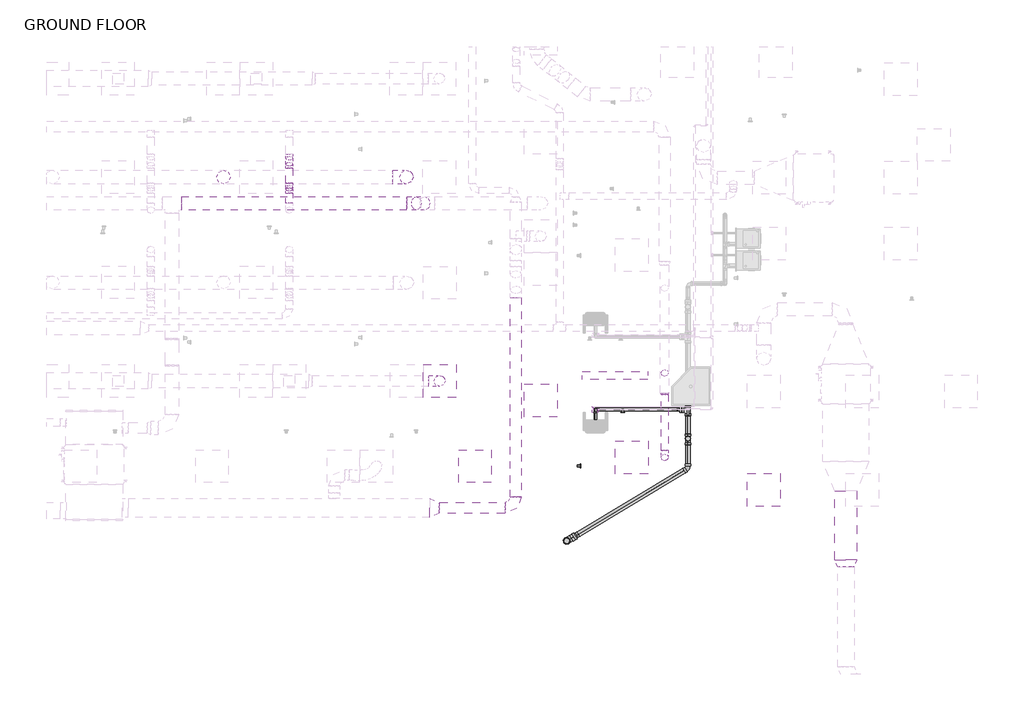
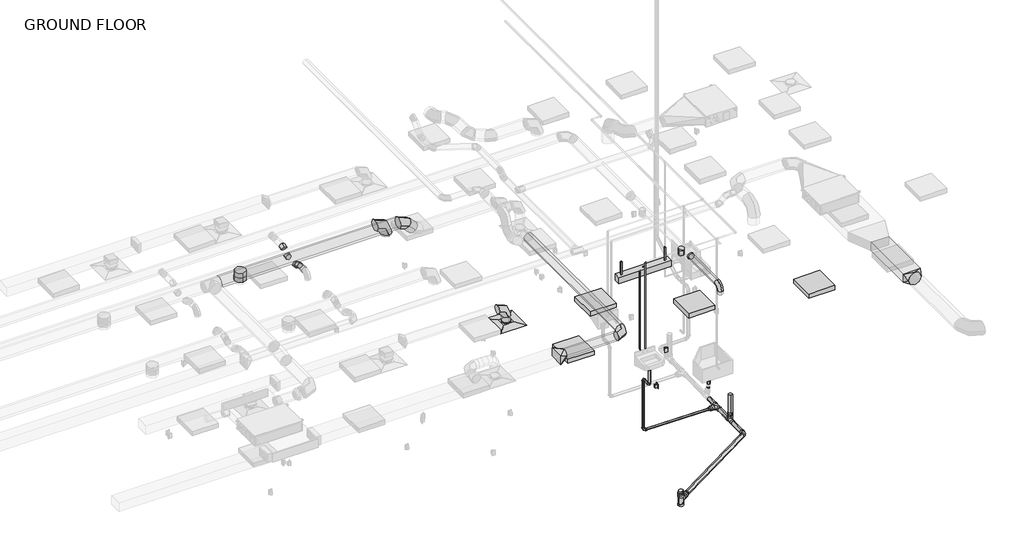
# One storey, part 6 of 20: 15 pipe fittings, 15 pipe segments, 14 duct fittings, 14 duct segments, 5 light fixtures, 1 air terminal, 1 proxy, 1 switching device.
"""IFC4 building model written with IfcOpenShell, lengths in millimetres."""

from ifc_helpers import new_model, si_unit, point, frame, frame_2d, origin, place, context, project, spatial, polyline, circle_curve, trimmed, segment, composite_curve, outline, extrude, transform, mapped, element, save
from components import air_terminal_e9020785, duplex_receptacle_countertop_10251bba, rectangular_to_round_transition_angle_45_degree_3a9c6b82, rectangular_to_round_transition_angle_45_degree_a6b6a24c, round_elbow_1_d_a253342a, round_elbow_1_d_6fec3262, round_elbow_1_d_c80420c1, round_elbow_1_d_ea3dccb8, round_elbow_1_d_538d8ec8, round_takeoff_standard_c386a54e, round_takeoff_standard_0d53327c, round_transition_angle_45_degree_f2e0231c, suspended_fluorescent_strip_non_hosted_strip_light_1x4_120v_4ea4ccb3, troffer_corner_insert_2x2_3lamp_e67c7f8f, bend_pvc_sch_40_dwv_standard_56513ac6, bend_pvc_sch_40_dwv_standard_370f4fae, bend_pvc_sch_40_dwv_standard_7bd6d8ba, elbow_generic_standard_a088f956, reducer_pvc_sch_40_dwv_standard_e0255712, reducer_pvc_sch_40_dwv_standard_bed7e4d3, reducer_pvc_sch_40_dwv_standard_58c00515, reducer_pvc_sch_40_dwv_standard_880e498f, tee_sanitary_pvc_sch_40_dwv_standard_1c89b272, tee_sanitary_pvc_sch_40_dwv_standard_95650df0, tee_sanitary_pvc_sch_40_dwv_standard_6eba9932

model = new_model("IFC4")

# Units and contexts
model_context = context("Model", 3, world=origin())
ifc_project = project(units=[si_unit("LENGTHUNIT", "METRE", prefix="MILLI")], contexts=[model_context])

# Site, building, storey
site = spatial("IfcSite", under=ifc_project)
building = spatial("IfcBuilding", under=site)
storey = spatial("IfcBuildingStorey", under=building, Name="GROUND FLOOR", Elevation=30480.0)

# Air terminal
placement = place(None, origin())
air_terminal_shape = air_terminal_e9020785(model_context)
element("IfcAirTerminal", 1, ObjectType="Supply Diffuser - Rectangular Face Round Neck - Hosted : 24\"x24\" Face 8\" Neck - Hosted", at=placement, inside=storey, context=model_context, shape_type="MappedRepresentation", body=[
    mapped(air_terminal_shape, transform((8335.3295393, -4228.1054995, 33223.2), x_axis=(0.0, -1.0, 0.0), y_axis=(-1.0, 0.0, 0.0), z_axis=(0.0, 0.0, -1.0))),
])

# Proxy
duplex_receptacle_countertop_shape = duplex_receptacle_countertop_10251bba(model_context)
element("IfcBuildingElementProxy", 2, Name="Duplex Receptacle : GFCI", ObjectType="Duplex Receptacle : GFCI", at=placement, inside=storey, context=model_context, shape_type="MappedRepresentation", body=[
    mapped(duplex_receptacle_countertop_shape, transform((11730.8076286, -4809.1304995, 31699.2), x_axis=(1.0, 0.0, 0.0), y_axis=(0.0, 0.0, 1.0), z_axis=(0.0, -1.0, 0.0))),
])

# Duct fittings
rectangular_to_round_transition_angle_45_degree_shape = rectangular_to_round_transition_angle_45_degree_3a9c6b82(model_context)
element("IfcDuctFitting", 3, ObjectType="Rectangular to Round Transition - Angle : 45 Degree", at=placement, inside=storey, context=model_context, shape_type="MappedRepresentation", body=[
    mapped(rectangular_to_round_transition_angle_45_degree_shape, transform((8148.4082034, -6584.4850038, 33877.25), x_axis=(1.0, 0.0, 0.0), y_axis=(0.0, 1.0, 0.0), z_axis=(0.0, 0.0, 1.0))),
])
rectangular_to_round_transition_angle_45_degree_2_shape = rectangular_to_round_transition_angle_45_degree_a6b6a24c(model_context)
element("IfcDuctFitting", 4, ObjectType="Rectangular to Round Transition - Angle : 45 Degree", at=placement, inside=storey, context=model_context, shape_type="MappedRepresentation", body=[
    mapped(rectangular_to_round_transition_angle_45_degree_2_shape, transform((15866.7105962, -7552.464426, 33750.25), x_axis=(0.0, -1.0, 0.0), y_axis=(1.0, 0.0, 0.0), z_axis=(0.0, 0.0, 1.0))),
])
round_elbow_1_d_shape = round_elbow_1_d_a253342a(model_context)
element("IfcDuctFitting", 5, ObjectType="Round Elbow : 1 D", at=placement, inside=storey, context=model_context, shape_type="MappedRepresentation", body=[
    mapped(round_elbow_1_d_shape, transform((9751.3795393, -6584.4850038, 33877.25), x_axis=(1.0, 0.0, 0.0), y_axis=(0.0, 1.0, 0.0), z_axis=(0.0, 0.0, 1.0))),
])
element("IfcDuctFitting", 6, ObjectType="Round Elbow : 1 D", at=placement, inside=storey, context=model_context, shape_type="MappedRepresentation", body=[
    mapped(round_elbow_1_d_shape, transform((8335.3295393, -4228.1054995, 33604.2), x_axis=(0.0, 0.0, 1.0), y_axis=(-1.0, 0.0, 0.0), z_axis=(0.0, -1.0, 0.0))),
])
round_elbow_1_d_2_shape = round_elbow_1_d_6fec3262(model_context)
element("IfcDuctFitting", 7, ObjectType="Round Elbow : 1 D", at=placement, inside=storey, context=model_context, shape_type="MappedRepresentation", body=[
    mapped(round_elbow_1_d_2_shape, transform((7719.2671727, -446.6804995, 33617.69375), x_axis=(0.0, 0.0, 1.0), y_axis=(-1.0, 0.0, 0.0), z_axis=(0.0, -1.0, 0.0))),
])
round_elbow_1_d_3_shape = round_elbow_1_d_c80420c1(model_context)
element("IfcDuctFitting", 8, ObjectType="Round Elbow : 1 D", at=placement, inside=storey, context=model_context, shape_type="MappedRepresentation", body=[
    mapped(round_elbow_1_d_3_shape, transform((12507.2795393, -5647.3304995, 33528.0), x_axis=(0.0, 0.0, 1.0), y_axis=(0.0, 1.0, 0.0), z_axis=(-1.0, 0.0, 0.0))),
])
round_elbow_1_d_4_shape = round_elbow_1_d_ea3dccb8(model_context)
element("IfcDuctFitting", 9, ObjectType="Round Elbow : 1 D", at=placement, inside=storey, context=model_context, shape_type="MappedRepresentation", body=[
    mapped(round_elbow_1_d_4_shape, transform((7831.7019534, -932.4554995, 33883.6), x_axis=(1.0, 0.0, 0.0), y_axis=(0.0, 0.0, -1.0), z_axis=(0.0, 1.0, 0.0))),
])
round_elbow_1_d_5_shape = round_elbow_1_d_538d8ec8(model_context)
element("IfcDuctFitting", 10, ObjectType="Round Elbow : 1 D", at=placement, inside=storey, context=model_context, shape_type="MappedRepresentation", body=[
    mapped(round_elbow_1_d_5_shape, transform((5547.6681472, -599.403412, 33404.3557926), x_axis=(0.0, 0.8191520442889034, -0.5735764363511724), y_axis=(0.0, 0.5735764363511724, 0.8191520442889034), z_axis=(1.0, 0.0, 0.0))),
])
element("IfcDuctFitting", 11, ObjectType="Round Elbow : 1 D", at=placement, inside=storey, context=model_context, shape_type="MappedRepresentation", body=[
    mapped(round_elbow_1_d_5_shape, transform((5547.6681472, -240.3054995, 33404.3557926), x_axis=(0.0, 1.0, 0.0), y_axis=(0.0, 0.0, 1.0), z_axis=(1.0, 0.0, 0.0))),
])
element("IfcDuctFitting", 12, ObjectType="Round Elbow : 1 D", at=placement, inside=storey, context=model_context, shape_type="MappedRepresentation", body=[
    mapped(round_elbow_1_d_5_shape, transform((5547.6681472, -63.7232711, 33528.0), x_axis=(0.0, 0.8191520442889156, 0.5735764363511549), y_axis=(0.0, 0.5735764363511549, -0.8191520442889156), z_axis=(-1.0, 0.0, 0.0))),
])
element("IfcDuctFitting", 13, ObjectType="Round Elbow : 1 D", at=placement, inside=storey, context=model_context, shape_type="MappedRepresentation", body=[
    mapped(round_elbow_1_d_5_shape, transform((5547.6681472, -703.4357216, 33477.2), x_axis=(0.0, -0.8191520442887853, 0.573576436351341), y_axis=(0.0, -0.573576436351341, -0.8191520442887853), z_axis=(1.0, 0.0, 0.0))),
])
round_takeoff_standard_shape = round_takeoff_standard_c386a54e(model_context)
element("IfcDuctFitting", 14, ObjectType="Round Takeoff : Standard", at=placement, inside=storey, context=model_context, shape_type="MappedRepresentation", body=[
    mapped(round_takeoff_standard_shape, transform((4328.4681472, -446.6804995, 33490.69375), x_axis=(0.0, 0.0, -1.0), y_axis=(-1.0, 0.0, 0.0), z_axis=(0.0, 1.0, 0.0))),
])
round_takeoff_standard_2_shape = round_takeoff_standard_0d53327c(model_context)
element("IfcDuctFitting", 15, ObjectType="Round Takeoff : Standard", at=placement, inside=storey, context=model_context, shape_type="MappedRepresentation", body=[
    mapped(round_takeoff_standard_2_shape, transform((12507.2795393, -4078.8804995, 33451.8), x_axis=(0.0, 0.0, -1.0), y_axis=(-1.0, 0.0, 0.0), z_axis=(0.0, 1.0, 0.0))),
])
round_transition_angle_45_degree_shape = round_transition_angle_45_degree_f2e0231c(model_context)
element("IfcDuctFitting", 16, ObjectType="Round Transition - Angle : 45 Degree", at=placement, inside=storey, context=model_context, shape_type="MappedRepresentation", body=[
    mapped(round_transition_angle_45_degree_shape, transform((12507.2795393, -4478.9304995, 33528.0), x_axis=(0.0, 1.0, 0.0), y_axis=(-1.0, 0.0, 0.0), z_axis=(0.0, 0.0, 1.0))),
])

# Duct segments
element("IfcDuctSegment", 17, ObjectType="Mitered Elbows / Taps", at=placement, inside=storey, context=model_context, shape_type="SweptSolid", body=[
    extrude(outline(polyline([(15663.5105962, -6265.9722363), (16069.9105962, -6265.9722363), (16069.9105962, -7552.464426), (15663.5105962, -7552.464426), (15663.5105962, -6265.9722363)])), frame((0.0, 0.0, 33648.65), z_axis=(0.0, 0.0, 1.0), x_axis=(1.0, 0.0, 0.0)), (0.0, 0.0, 1.0), 203.2),
])
element("IfcDuctSegment", 18, ObjectType="Taps / Short Radius", at=placement, inside=storey, context=model_context, shape_type="SweptSolid", body=[
    extrude(outline(composite_curve([segment(trimmed(circle_curve(frame_2d((-6584.4850038, 33877.25)), 101.6), [point((-6686.0850038, 33877.25))], [point((-6584.4850038, 33978.85))], False, "CARTESIAN"), True, "CONTINUOUS"), segment(trimmed(circle_curve(frame_2d((-6584.4850038, 33877.25)), 101.6), [point((-6584.4850038, 33978.85))], [point((-6482.8850038, 33877.25))], False, "CARTESIAN"), True, "CONTINUOUS"), segment(trimmed(circle_curve(frame_2d((-6584.4850038, 33877.25)), 101.6), [point((-6482.8850038, 33877.25))], [point((-6584.4850038, 33775.65))], False, "CARTESIAN"), True, "CONTINUOUS"), segment(trimmed(circle_curve(frame_2d((-6584.4850038, 33877.25)), 101.6), [point((-6584.4850038, 33775.65))], [point((-6686.0850038, 33877.25))], False, "CARTESIAN"), True, "CONTINUOUS")], self_intersect=False)), frame((8332.3712769, 0.0, 0.0), z_axis=(1.0, 0.0, 0.0), x_axis=(0.0, 1.0, 0.0)), (0.0, 0.0, 1.0), 1215.8082624),
])
element("IfcDuctSegment", 19, ObjectType="Taps / Short Radius", at=placement, inside=storey, context=model_context, shape_type="SweptSolid", body=[
    extrude(outline(composite_curve([segment(trimmed(circle_curve(frame_2d((8335.3295393, -4228.1054995)), 101.6), [point((8335.3295393, -4126.5054995))], [point((8436.9295393, -4228.1054995))], False, "CARTESIAN"), True, "CONTINUOUS"), segment(trimmed(circle_curve(frame_2d((8335.3295393, -4228.1054995)), 101.6), [point((8436.9295393, -4228.1054995))], [point((8335.3295393, -4329.7054995))], False, "CARTESIAN"), True, "CONTINUOUS"), segment(trimmed(circle_curve(frame_2d((8335.3295393, -4228.1054995)), 101.6), [point((8335.3295393, -4329.7054995))], [point((8233.7295393, -4228.1054995))], False, "CARTESIAN"), True, "CONTINUOUS"), segment(trimmed(circle_curve(frame_2d((8335.3295393, -4228.1054995)), 101.6), [point((8233.7295393, -4228.1054995))], [point((8335.3295393, -4126.5054995))], False, "CARTESIAN"), True, "CONTINUOUS")], self_intersect=False)), frame((0.0, 0.0, 33277.175), z_axis=(0.0, 0.0, 1.0), x_axis=(1.0, 0.0, 0.0)), (0.0, 0.0, 1.0), 123.825),
])
element("IfcDuctSegment", 20, ObjectType="Taps / Short Radius", at=placement, inside=storey, context=model_context, shape_type="SweptSolid", body=[
    extrude(outline(composite_curve([segment(trimmed(circle_curve(frame_2d((-932.4554995, 33883.6)), 127.0), [point((-1059.4554995, 33883.6))], [point((-932.4554995, 34010.6))], False, "CARTESIAN"), True, "CONTINUOUS"), segment(trimmed(circle_curve(frame_2d((-932.4554995, 33883.6)), 127.0), [point((-932.4554995, 34010.6))], [point((-805.4554995, 33883.6))], False, "CARTESIAN"), True, "CONTINUOUS"), segment(trimmed(circle_curve(frame_2d((-932.4554995, 33883.6)), 127.0), [point((-805.4554995, 33883.6))], [point((-932.4554995, 33756.6))], False, "CARTESIAN"), True, "CONTINUOUS"), segment(trimmed(circle_curve(frame_2d((-932.4554995, 33883.6)), 127.0), [point((-932.4554995, 33756.6))], [point((-1059.4554995, 33883.6))], False, "CARTESIAN"), True, "CONTINUOUS")], self_intersect=False)), frame((3551.0082034, 0.0, 0.0), z_axis=(1.0, 0.0, 0.0), x_axis=(0.0, 1.0, 0.0)), (0.0, 0.0, 1.0), 4175.4835052),
])
element("IfcDuctSegment", 21, ObjectType="Taps / Short Radius", at=placement, inside=storey, context=model_context, shape_type="SweptSolid", body=[
    extrude(outline(composite_curve([segment(trimmed(circle_curve(frame_2d((0.0, -127.0)), 127.0), [point((0.0, -254.0))], [point((-127.0, -127.0))], False, "CARTESIAN"), True, "CONTINUOUS"), segment(trimmed(circle_curve(frame_2d((0.0, -127.0)), 127.0), [point((-127.0, -127.0))], [point((0.0, 0.0))], False, "CARTESIAN"), True, "CONTINUOUS"), segment(trimmed(circle_curve(frame_2d((0.0, -127.0)), 127.0), [point((0.0, 0.0))], [point((127.0, -127.0))], False, "CARTESIAN"), True, "CONTINUOUS"), segment(trimmed(circle_curve(frame_2d((0.0, -127.0)), 127.0), [point((127.0, -127.0))], [point((0.0, -254.0))], False, "CARTESIAN"), True, "CONTINUOUS")], self_intersect=False)), frame((8062.1070759, -805.4554995, 33653.1948776), z_axis=(-0.7071067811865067, 0.0, 0.7071067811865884), x_axis=(0.7071067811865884, 0.0, 0.7071067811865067)), (0.0, 0.0, 1.0), 220.6318041),
])
element("IfcDuctSegment", 22, ObjectType="Taps / Short Radius", at=placement, inside=storey, context=model_context, shape_type="SweptSolid", body=[
    extrude(outline(composite_curve([segment(trimmed(circle_curve(frame_2d((7719.2671727, -446.6804995)), 127.0), [point((7719.2671727, -319.6804995))], [point((7846.2671727, -446.6804995))], False, "CARTESIAN"), True, "CONTINUOUS"), segment(trimmed(circle_curve(frame_2d((7719.2671727, -446.6804995)), 127.0), [point((7846.2671727, -446.6804995))], [point((7719.2671727, -573.6804995))], False, "CARTESIAN"), True, "CONTINUOUS"), segment(trimmed(circle_curve(frame_2d((7719.2671727, -446.6804995)), 127.0), [point((7719.2671727, -573.6804995))], [point((7592.2671727, -446.6804995))], False, "CARTESIAN"), True, "CONTINUOUS"), segment(trimmed(circle_curve(frame_2d((7719.2671727, -446.6804995)), 127.0), [point((7592.2671727, -446.6804995))], [point((7719.2671727, -319.6804995))], False, "CARTESIAN"), True, "CONTINUOUS")], self_intersect=False)), frame((0.0, 0.0, 33324.8), z_axis=(0.0, 0.0, 1.0), x_axis=(1.0, 0.0, 0.0)), (0.0, 0.0, 1.0), 38.89375),
])
element("IfcDuctSegment", 23, ObjectType="Taps / Short Radius", at=placement, inside=storey, context=model_context, shape_type="SweptSolid", body=[
    extrude(outline(composite_curve([segment(trimmed(circle_curve(frame_2d((33528.0, 12507.2795393)), 63.5), [point((33528.0, 12570.7795393))], [point((33591.5, 12507.2795393))], False, "CARTESIAN"), True, "CONTINUOUS"), segment(trimmed(circle_curve(frame_2d((33528.0, 12507.2795393)), 63.5), [point((33591.5, 12507.2795393))], [point((33528.0, 12443.7795393))], False, "CARTESIAN"), True, "CONTINUOUS"), segment(trimmed(circle_curve(frame_2d((33528.0, 12507.2795393)), 63.5), [point((33528.0, 12443.7795393))], [point((33464.5, 12507.2795393))], False, "CARTESIAN"), True, "CONTINUOUS"), segment(trimmed(circle_curve(frame_2d((33528.0, 12507.2795393)), 63.5), [point((33464.5, 12507.2795393))], [point((33528.0, 12570.7795393))], False, "CARTESIAN"), True, "CONTINUOUS")], self_intersect=False)), frame((0.0, -5520.3304995, 0.0), z_axis=(0.0, 1.0, 0.0), x_axis=(0.0, 0.0, 1.0)), (0.0, 0.0, 1.0), 1041.4),
])
element("IfcDuctSegment", 24, ObjectType="Taps / Short Radius", at=placement, inside=storey, context=model_context, shape_type="SweptSolid", body=[
    extrude(outline(composite_curve([segment(trimmed(circle_curve(frame_2d((12507.2795393, -5647.3304995)), 63.5), [point((12570.7795393, -5647.3304995))], [point((12507.2795393, -5710.8304995))], False, "CARTESIAN"), True, "CONTINUOUS"), segment(trimmed(circle_curve(frame_2d((12507.2795393, -5647.3304995)), 63.5), [point((12507.2795393, -5710.8304995))], [point((12443.7795393, -5647.3304995))], False, "CARTESIAN"), True, "CONTINUOUS"), segment(trimmed(circle_curve(frame_2d((12507.2795393, -5647.3304995)), 63.5), [point((12443.7795393, -5647.3304995))], [point((12507.2795393, -5583.8304995))], False, "CARTESIAN"), True, "CONTINUOUS"), segment(trimmed(circle_curve(frame_2d((12507.2795393, -5647.3304995)), 63.5), [point((12507.2795393, -5583.8304995))], [point((12570.7795393, -5647.3304995))], False, "CARTESIAN"), True, "CONTINUOUS")], self_intersect=False)), frame((0.0, 0.0, 33324.8), z_axis=(0.0, 0.0, 1.0), x_axis=(1.0, 0.0, 0.0)), (0.0, 0.0, 1.0), 76.2),
])
element("IfcDuctSegment", 25, ObjectType="Taps / Short Radius", at=placement, inside=storey, context=model_context, shape_type="SweptSolid", body=[
    extrude(outline(composite_curve([segment(trimmed(circle_curve(frame_2d((0.0, 63.5)), 63.5), [point((-63.5, 63.5))], [point((0.0, 127.0))], False, "CARTESIAN"), True, "CONTINUOUS"), segment(trimmed(circle_curve(frame_2d((0.0, 63.5)), 63.5), [point((0.0, 127.0))], [point((63.5, 63.5))], False, "CARTESIAN"), True, "CONTINUOUS"), segment(trimmed(circle_curve(frame_2d((0.0, 63.5)), 63.5), [point((63.5, 63.5))], [point((0.0, 0.0))], False, "CARTESIAN"), True, "CONTINUOUS"), segment(trimmed(circle_curve(frame_2d((0.0, 63.5)), 63.5), [point((0.0, 0.0))], [point((-63.5, 63.5))], False, "CARTESIAN"), True, "CONTINUOUS")], self_intersect=False)), frame((12507.2795393, -4142.3804995, 33324.8), z_axis=(0.0, -2.3192114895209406e-12, 1.0), x_axis=(1.0, 0.0, 0.0)), (0.0, 0.0, 1.0), 25.4),
])
element("IfcDuctSegment", 26, ObjectType="Taps / Short Radius", at=placement, inside=storey, context=model_context, shape_type="SweptSolid", body=[
    extrude(outline(composite_curve([segment(trimmed(circle_curve(frame_2d((0.0, -63.5)), 63.5), [point((63.5, -63.5))], [point((0.0, -127.0000001))], False, "CARTESIAN"), True, "CONTINUOUS"), segment(trimmed(circle_curve(frame_2d((0.0, -63.5)), 63.5), [point((0.0, -127.0000001))], [point((-63.5, -63.5))], False, "CARTESIAN"), True, "CONTINUOUS"), segment(trimmed(circle_curve(frame_2d((0.0, -63.5)), 63.5), [point((-63.5, -63.5))], [point((0.0, 0.0))], False, "CARTESIAN"), True, "CONTINUOUS"), segment(trimmed(circle_curve(frame_2d((0.0, -63.5)), 63.5), [point((0.0, 0.0))], [point((63.5, -63.5))], False, "CARTESIAN"), True, "CONTINUOUS")], self_intersect=False)), frame((5547.6681472, -595.7825695, 33479.3396378), z_axis=(0.0, -0.819152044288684, 0.5735764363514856), x_axis=(1.0, 0.0, 0.0)), (0.0, 0.0, 1.0), 46.9141076),
])
element("IfcDuctSegment", 27, ObjectType="Taps / Short Radius", at=placement, inside=storey, context=model_context, shape_type="SweptSolid", body=[
    extrude(outline(composite_curve([segment(trimmed(circle_curve(frame_2d((33404.3557926, 5547.6681472)), 63.5), [point((33404.3557926, 5611.1681472))], [point((33467.8557926, 5547.6681472))], False, "CARTESIAN"), True, "CONTINUOUS"), segment(trimmed(circle_curve(frame_2d((33404.3557926, 5547.6681472)), 63.5), [point((33467.8557926, 5547.6681472))], [point((33404.3557926, 5484.1681472))], False, "CARTESIAN"), True, "CONTINUOUS"), segment(trimmed(circle_curve(frame_2d((33404.3557926, 5547.6681472)), 63.5), [point((33404.3557926, 5484.1681472))], [point((33340.8557926, 5547.6681472))], False, "CARTESIAN"), True, "CONTINUOUS"), segment(trimmed(circle_curve(frame_2d((33404.3557926, 5547.6681472)), 63.5), [point((33340.8557926, 5547.6681472))], [point((33404.3557926, 5611.1681472))], False, "CARTESIAN"), True, "CONTINUOUS")], self_intersect=False)), frame((0.0, -559.3604658, 0.0), z_axis=(0.0, 1.0, 0.0), x_axis=(0.0, 0.0, 1.0)), (0.0, 0.0, 1.0), 279.0120202),
])
element("IfcDuctSegment", 28, ObjectType="Taps / Short Radius", at=placement, inside=storey, context=model_context, shape_type="SweptSolid", body=[
    extrude(outline(composite_curve([segment(trimmed(circle_curve(frame_2d((0.0, 63.5)), 63.5), [point((63.5, 63.5))], [point((0.0, 0.0))], False, "CARTESIAN"), True, "CONTINUOUS"), segment(trimmed(circle_curve(frame_2d((0.0, 63.5)), 63.5), [point((0.0, 0.0))], [point((-63.5, 63.5))], False, "CARTESIAN"), True, "CONTINUOUS"), segment(trimmed(circle_curve(frame_2d((0.0, 63.5)), 63.5), [point((-63.5, 63.5))], [point((0.0, 127.0000001))], False, "CARTESIAN"), True, "CONTINUOUS"), segment(trimmed(circle_curve(frame_2d((0.0, 63.5)), 63.5), [point((0.0, 127.0000001))], [point((63.5, 63.5))], False, "CARTESIAN"), True, "CONTINUOUS")], self_intersect=False)), frame((5547.6681472, -243.926342, 33479.3396378), z_axis=(0.0, 0.8191520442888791, 0.5735764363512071), x_axis=(1.0, 0.0, 0.0)), (0.0, 0.0, 1.0), 135.4812048),
])
element("IfcDuctSegment", 29, ObjectType="Taps / Short Radius", at=placement, inside=storey, context=model_context, shape_type="SweptSolid", body=[
    extrude(outline(composite_curve([segment(trimmed(circle_curve(frame_2d((33877.25, 9751.3795393)), 101.6), [point((33877.25, 9852.9795393))], [point((33978.85, 9751.3795393))], False, "CARTESIAN"), True, "CONTINUOUS"), segment(trimmed(circle_curve(frame_2d((33877.25, 9751.3795393)), 101.6), [point((33978.85, 9751.3795393))], [point((33877.25, 9649.7795393))], False, "CARTESIAN"), True, "CONTINUOUS"), segment(trimmed(circle_curve(frame_2d((33877.25, 9751.3795393)), 101.6), [point((33877.25, 9649.7795393))], [point((33775.65, 9751.3795393))], False, "CARTESIAN"), True, "CONTINUOUS"), segment(trimmed(circle_curve(frame_2d((33877.25, 9751.3795393)), 101.6), [point((33775.65, 9751.3795393))], [point((33877.25, 9852.9795393))], False, "CARTESIAN"), True, "CONTINUOUS")], self_intersect=False)), frame((0.0, -6381.2850038, 0.0), z_axis=(0.0, 1.0, 0.0), x_axis=(0.0, 0.0, 1.0)), (0.0, 0.0, 1.0), 3700.5111665),
])
element("IfcDuctSegment", 30, ObjectType="Taps / Short Radius", at=placement, inside=storey, context=model_context, shape_type="SweptSolid", body=[
    extrude(outline(composite_curve([segment(trimmed(circle_curve(frame_2d((33477.2, 5547.6681472)), 63.5), [point((33477.2, 5484.1681472))], [point((33413.7, 5547.6681472))], False, "CARTESIAN"), True, "CONTINUOUS"), segment(trimmed(circle_curve(frame_2d((33477.2, 5547.6681472)), 63.5), [point((33413.7, 5547.6681472))], [point((33477.2, 5611.1681472))], False, "CARTESIAN"), True, "CONTINUOUS"), segment(trimmed(circle_curve(frame_2d((33477.2, 5547.6681472)), 63.5), [point((33477.2, 5611.1681472))], [point((33540.7, 5547.6681472))], False, "CARTESIAN"), True, "CONTINUOUS"), segment(trimmed(circle_curve(frame_2d((33477.2, 5547.6681472)), 63.5), [point((33540.7, 5547.6681472))], [point((33477.2, 5484.1681472))], False, "CARTESIAN"), True, "CONTINUOUS")], self_intersect=False)), frame((0.0, -929.2804995, 0.0), z_axis=(0.0, 1.0, 0.0), x_axis=(0.0, 0.0, 1.0)), (0.0, 0.0, 1.0), 185.8018317),
])

# Light fixtures
suspended_fluorescent_strip_non_hosted_strip_light_1x4_120v_shape = suspended_fluorescent_strip_non_hosted_strip_light_1x4_120v_4ea4ccb3(model_context)
element("IfcLightFixture", 31, ObjectType="Suspended Fluorescent Strip - Non-Hosted : Strip Light 1x4 - 120V Normal", at=placement, inside=storey, context=model_context, shape_type="MappedRepresentation", body=[
    mapped(suspended_fluorescent_strip_non_hosted_strip_light_1x4_120v_shape, transform((11587.5546722, -4126.5054995, 33223.2), x_axis=(1.0, 0.0, 0.0), y_axis=(0.0, 1.0, 0.0), z_axis=(0.0, 0.0, 1.0))),
])
troffer_corner_insert_2x2_3lamp_shape = troffer_corner_insert_2x2_3lamp_e67c7f8f(model_context)
element("IfcLightFixture", 32, ObjectType="Troffer Corner Insert : 2x2 3Lamp", at=placement, inside=storey, context=model_context, shape_type="MappedRepresentation", body=[
    mapped(troffer_corner_insert_2x2_3lamp_shape, transform((10211.7545393, -4590.0554995, 30784.8), x_axis=(1.0, 0.0, 0.0), y_axis=(0.0, 1.0, 0.0), z_axis=(0.0, 0.0, 1.0))),
])
element("IfcLightFixture", 33, ObjectType="Troffer Corner Insert : 2x2 3Lamp", at=placement, inside=storey, context=model_context, shape_type="MappedRepresentation", body=[
    mapped(troffer_corner_insert_2x2_3lamp_shape, transform((8992.5545393, -5809.2554995, 30784.8), x_axis=(1.0, 0.0, 0.0), y_axis=(0.0, 1.0, 0.0), z_axis=(0.0, 0.0, 1.0))),
])
element("IfcLightFixture", 34, ObjectType="Troffer Corner Insert : 2x2 3Lamp", at=placement, inside=storey, context=model_context, shape_type="MappedRepresentation", body=[
    mapped(troffer_corner_insert_2x2_3lamp_shape, transform((11897.6795393, -5647.3304995, 30784.8), x_axis=(1.0, 0.0, 0.0), y_axis=(0.0, 1.0, 0.0), z_axis=(0.0, 0.0, 1.0))),
])
element("IfcLightFixture", 35, ObjectType="Troffer Corner Insert : 2x2 3Lamp", at=placement, inside=storey, context=model_context, shape_type="MappedRepresentation", body=[
    mapped(troffer_corner_insert_2x2_3lamp_shape, transform((14345.6045393, -6253.7554995, 30784.8), x_axis=(1.0, 0.0, 0.0), y_axis=(0.0, 1.0, 0.0), z_axis=(0.0, 0.0, 1.0))),
])

# Pipe fittings
bend_pvc_sch_40_dwv_standard_shape = bend_pvc_sch_40_dwv_standard_56513ac6(model_context)
element("IfcPipeFitting", 36, ObjectType="Bend - PVC - Sch 40 - DWV : Standard", at=placement, inside=storey, context=model_context, shape_type="MappedRepresentation", body=[
    mapped(bend_pvc_sch_40_dwv_standard_shape, transform((11224.5795393, -5012.3304995, 31140.4), x_axis=(0.0, 0.0, -1.0), y_axis=(0.0, 1.0, 0.0), z_axis=(1.0, 0.0, 0.0))),
])
element("IfcPipeFitting", 37, ObjectType="Bend - PVC - Sch 40 - DWV : Standard", at=placement, inside=storey, context=model_context, shape_type="MappedRepresentation", body=[
    mapped(bend_pvc_sch_40_dwv_standard_shape, transform((11224.5795393, -4758.3304995, 31137.7541667), x_axis=(0.0, 0.9999457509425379, -0.010416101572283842), y_axis=(0.0, -0.010416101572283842, -0.9999457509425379), z_axis=(-1.0, 0.0, 0.0))),
])
bend_pvc_sch_40_dwv_standard_2_shape = bend_pvc_sch_40_dwv_standard_370f4fae(model_context)
element("IfcPipeFitting", 38, ObjectType="Bend - PVC - Sch 40 - DWV : Standard", at=placement, inside=storey, context=model_context, shape_type="MappedRepresentation", body=[
    mapped(bend_pvc_sch_40_dwv_standard_2_shape, transform((11224.5795393, -4758.3304995, 29870.4743226), x_axis=(0.0, 0.0, -1.0), y_axis=(1.0, 0.0, 0.0), z_axis=(0.0, -1.0, 0.0))),
])
bend_pvc_sch_40_dwv_standard_3_shape = bend_pvc_sch_40_dwv_standard_7bd6d8ba(model_context)
element("IfcPipeFitting", 39, ObjectType="Bend - PVC - Sch 40 - DWV : Standard", at=placement, inside=storey, context=model_context, shape_type="MappedRepresentation", body=[
    mapped(bend_pvc_sch_40_dwv_standard_3_shape, transform((12939.0795393, -5850.5304995, 29839.1791667), x_axis=(0.8571673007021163, 0.5150380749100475, 0.0), y_axis=(-0.5150000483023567, 0.8571040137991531, 0.012151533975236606), z_axis=(0.006258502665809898, -0.010415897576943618, 0.9999261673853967))),
])
elbow_generic_standard_shape = elbow_generic_standard_a088f956(model_context)
element("IfcPipeFitting", 40, ObjectType="Elbow - Generic : Standard", at=placement, inside=storey, context=model_context, shape_type="MappedRepresentation", body=[
    mapped(elbow_generic_standard_shape, transform((11275.3795393, -4755.5406482, 31851.6), x_axis=(0.0, 1.0, 0.0), y_axis=(0.0, 0.0, 1.0), z_axis=(1.0, 0.0, 0.0))),
])
element("IfcPipeFitting", 41, ObjectType="Elbow - Generic : Standard", at=placement, inside=storey, context=model_context, shape_type="MappedRepresentation", body=[
    mapped(elbow_generic_standard_shape, transform((11275.3795393, -4755.5406482, 33978.2831664), x_axis=(0.0, 0.0, 1.0), y_axis=(1.0, 0.0, 0.0), z_axis=(0.0, 1.0, 0.0))),
])
element("IfcPipeFitting", 42, ObjectType="Elbow - Generic : Standard", at=placement, inside=storey, context=model_context, shape_type="MappedRepresentation", body=[
    mapped(elbow_generic_standard_shape, transform((11173.7795393, -4707.5304995, 31851.6), x_axis=(0.0, 1.0, 0.0), y_axis=(0.0, 0.0, 1.0), z_axis=(1.0, 0.0, 0.0))),
])
element("IfcPipeFitting", 43, ObjectType="Elbow - Generic : Standard", at=placement, inside=storey, context=model_context, shape_type="MappedRepresentation", body=[
    mapped(elbow_generic_standard_shape, transform((11173.7795393, -4707.5304995, 33782.0), x_axis=(0.0, 0.0, 1.0), y_axis=(1.0, 0.0, 0.0), z_axis=(0.0, 1.0, 0.0))),
])
reducer_pvc_sch_40_dwv_standard_shape = reducer_pvc_sch_40_dwv_standard_e0255712(model_context)
element("IfcPipeFitting", 44, ObjectType="Reducer - PVC - Sch 40 - DWV : Standard", at=placement, inside=storey, context=model_context, shape_type="MappedRepresentation", body=[
    mapped(reducer_pvc_sch_40_dwv_standard_shape, transform((12939.0795393, -5298.0804995, 29960.8340542), x_axis=(0.0, 0.0, 1.0), y_axis=(1.0, 0.0, 0.0), z_axis=(0.0, 1.0, 0.0))),
])
reducer_pvc_sch_40_dwv_standard_2_shape = reducer_pvc_sch_40_dwv_standard_bed7e4d3(model_context)
element("IfcPipeFitting", 45, ObjectType="Reducer - PVC - Sch 40 - DWV : Standard", at=placement, inside=storey, context=model_context, shape_type="MappedRepresentation", body=[
    mapped(reducer_pvc_sch_40_dwv_standard_2_shape, transform((12823.1871597, -4758.3304995, 29851.9026209), x_axis=(-0.9999325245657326, 0.0, 0.011616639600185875), y_axis=(-0.00012099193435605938, -0.9999457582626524, -0.010414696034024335), z_axis=(0.01161600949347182, -0.010415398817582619, 0.9998782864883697))),
])
reducer_pvc_sch_40_dwv_standard_3_shape = reducer_pvc_sch_40_dwv_standard_58c00515(model_context)
element("IfcPipeFitting", 46, ObjectType="Reducer - PVC - Sch 40 - DWV : Standard", at=placement, inside=storey, context=model_context, shape_type="MappedRepresentation", body=[
    mapped(reducer_pvc_sch_40_dwv_standard_3_shape, transform((10692.7422346, -7196.7161279, 29946.4719504), x_axis=(0.0, 0.0, 1.0), y_axis=(0.8571673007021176, 0.5150380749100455, 0.0), z_axis=(-0.5150380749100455, 0.8571673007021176, 0.0))),
])
reducer_pvc_sch_40_dwv_standard_4_shape = reducer_pvc_sch_40_dwv_standard_880e498f(model_context)
element("IfcPipeFitting", 47, ObjectType="Reducer - PVC - Sch 40 - DWV : Standard", at=placement, inside=storey, context=model_context, shape_type="MappedRepresentation", body=[
    mapped(reducer_pvc_sch_40_dwv_standard_4_shape, transform((10815.2100042, -7123.1300681, 29838.2845585), x_axis=(0.8571672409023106, 0.5150380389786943, 0.00037353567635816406), y_axis=(-0.5150380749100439, 0.8571673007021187, 0.0), z_axis=(-0.0003201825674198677, -0.00019238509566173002, 0.9999999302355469))),
])
tee_sanitary_pvc_sch_40_dwv_standard_shape = tee_sanitary_pvc_sch_40_dwv_standard_1c89b272(model_context)
element("IfcPipeFitting", 48, ObjectType="Tee Sanitary - PVC - Sch 40 - DWV : Standard", at=placement, inside=storey, context=model_context, shape_type="MappedRepresentation", body=[
    mapped(tee_sanitary_pvc_sch_40_dwv_standard_shape, transform((12939.0795393, -5298.0804995, 29844.9338542), x_axis=(0.0, 0.9999457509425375, 0.010416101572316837), y_axis=(0.0, 0.010416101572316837, -0.9999457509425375), z_axis=(-1.0, 0.0, 0.0))),
])
tee_sanitary_pvc_sch_40_dwv_standard_2_shape = tee_sanitary_pvc_sch_40_dwv_standard_95650df0(model_context)
element("IfcPipeFitting", 49, ObjectType="Tee Sanitary - PVC - Sch 40 - DWV : Standard", at=placement, inside=storey, context=model_context, shape_type="MappedRepresentation", body=[
    mapped(tee_sanitary_pvc_sch_40_dwv_standard_2_shape, transform((12939.0795393, -4758.3304995, 29850.55625), x_axis=(0.0, 0.9999457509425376, 0.010416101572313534), y_axis=(0.9999325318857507, 0.00012099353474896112, -0.011615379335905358), z_axis=(-0.011616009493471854, 0.010415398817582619, -0.9998782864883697))),
])
tee_sanitary_pvc_sch_40_dwv_standard_3_shape = tee_sanitary_pvc_sch_40_dwv_standard_6eba9932(model_context)
element("IfcPipeFitting", 50, ObjectType="Tee Sanitary - PVC - Sch 40 - DWV : Standard", at=placement, inside=storey, context=model_context, shape_type="MappedRepresentation", body=[
    mapped(tee_sanitary_pvc_sch_40_dwv_standard_3_shape, transform((10692.7422346, -7196.7161279, 29838.2311896), x_axis=(0.0, 0.0, 1.0), y_axis=(-0.8571673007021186, -0.5150380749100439, 0.0), z_axis=(0.5150380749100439, -0.8571673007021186, 0.0))),
])

# Pipe segments
element("IfcPipeSegment", 51, ObjectType="Copper Tubing", at=placement, inside=storey, context=model_context, shape_type="SweptSolid", body=[
    extrude(outline(composite_curve([segment(trimmed(circle_curve(frame_2d((31851.6, 11275.3795393)), 7.9375), [point((31851.6, 11283.3170393))], [point((31859.5375, 11275.3795393))], False, "CARTESIAN"), True, "CONTINUOUS"), segment(trimmed(circle_curve(frame_2d((31851.6, 11275.3795393)), 7.9375), [point((31859.5375, 11275.3795393))], [point((31851.6, 11267.4420393))], False, "CARTESIAN"), True, "CONTINUOUS"), segment(trimmed(circle_curve(frame_2d((31851.6, 11275.3795393)), 7.9375), [point((31851.6, 11267.4420393))], [point((31843.6625, 11275.3795393))], False, "CARTESIAN"), True, "CONTINUOUS"), segment(trimmed(circle_curve(frame_2d((31851.6, 11275.3795393)), 7.9375), [point((31843.6625, 11275.3795393))], [point((31851.6, 11283.3170393))], False, "CARTESIAN"), True, "CONTINUOUS")], self_intersect=False)), frame((0.0, -4809.1304995, 0.0), z_axis=(0.0, 1.0, 0.0), x_axis=(0.0, 0.0, 1.0)), (0.0, 0.0, 1.0), 39.3023513),
])
element("IfcPipeSegment", 52, ObjectType="Copper Tubing", at=placement, inside=storey, context=model_context, shape_type="SweptSolid", body=[
    extrude(outline(composite_curve([segment(trimmed(circle_curve(frame_2d((11275.3795393, -4755.5406482)), 7.9375), [point((11267.4420393, -4755.5406482))], [point((11275.3795393, -4747.6031482))], False, "CARTESIAN"), True, "CONTINUOUS"), segment(trimmed(circle_curve(frame_2d((11275.3795393, -4755.5406482)), 7.9375), [point((11275.3795393, -4747.6031482))], [point((11283.3170393, -4755.5406482))], False, "CARTESIAN"), True, "CONTINUOUS"), segment(trimmed(circle_curve(frame_2d((11275.3795393, -4755.5406482)), 7.9375), [point((11283.3170393, -4755.5406482))], [point((11275.3795393, -4763.4781482))], False, "CARTESIAN"), True, "CONTINUOUS"), segment(trimmed(circle_curve(frame_2d((11275.3795393, -4755.5406482)), 7.9375), [point((11275.3795393, -4763.4781482))], [point((11267.4420393, -4755.5406482))], False, "CARTESIAN"), True, "CONTINUOUS")], self_intersect=False)), frame((0.0, 0.0, 31865.8875), z_axis=(0.0, 0.0, 1.0), x_axis=(1.0, 0.0, 0.0)), (0.0, 0.0, 1.0), 2098.1081664),
])
element("IfcPipeSegment", 53, ObjectType="Copper Tubing", at=placement, inside=storey, context=model_context, shape_type="SweptSolid", body=[
    extrude(outline(composite_curve([segment(trimmed(circle_curve(frame_2d((31851.6, 11173.7795393)), 7.9375), [point((31851.6, 11181.7170393))], [point((31859.5375, 11173.7795393))], False, "CARTESIAN"), True, "CONTINUOUS"), segment(trimmed(circle_curve(frame_2d((31851.6, 11173.7795393)), 7.9375), [point((31859.5375, 11173.7795393))], [point((31851.6, 11165.8420393))], False, "CARTESIAN"), True, "CONTINUOUS"), segment(trimmed(circle_curve(frame_2d((31851.6, 11173.7795393)), 7.9375), [point((31851.6, 11165.8420393))], [point((31843.6625, 11173.7795393))], False, "CARTESIAN"), True, "CONTINUOUS"), segment(trimmed(circle_curve(frame_2d((31851.6, 11173.7795393)), 7.9375), [point((31843.6625, 11173.7795393))], [point((31851.6, 11181.7170393))], False, "CARTESIAN"), True, "CONTINUOUS")], self_intersect=False)), frame((0.0, -4809.1304995, 0.0), z_axis=(0.0, 1.0, 0.0), x_axis=(0.0, 0.0, 1.0)), (0.0, 0.0, 1.0), 87.3125),
])
element("IfcPipeSegment", 54, ObjectType="Copper Tubing", at=placement, inside=storey, context=model_context, shape_type="SweptSolid", body=[
    extrude(outline(composite_curve([segment(trimmed(circle_curve(frame_2d((11173.7795393, -4707.5304995)), 7.9375), [point((11165.8420393, -4707.5304995))], [point((11173.7795393, -4699.5929995))], False, "CARTESIAN"), True, "CONTINUOUS"), segment(trimmed(circle_curve(frame_2d((11173.7795393, -4707.5304995)), 7.9375), [point((11173.7795393, -4699.5929995))], [point((11181.7170393, -4707.5304995))], False, "CARTESIAN"), True, "CONTINUOUS"), segment(trimmed(circle_curve(frame_2d((11173.7795393, -4707.5304995)), 7.9375), [point((11181.7170393, -4707.5304995))], [point((11173.7795393, -4715.4679995))], False, "CARTESIAN"), True, "CONTINUOUS"), segment(trimmed(circle_curve(frame_2d((11173.7795393, -4707.5304995)), 7.9375), [point((11173.7795393, -4715.4679995))], [point((11165.8420393, -4707.5304995))], False, "CARTESIAN"), True, "CONTINUOUS")], self_intersect=False)), frame((0.0, 0.0, 31865.8875), z_axis=(0.0, 0.0, 1.0), x_axis=(1.0, 0.0, 0.0)), (0.0, 0.0, 1.0), 1901.825),
])
element("IfcPipeSegment", 55, ObjectType="PVC - DWV", at=placement, inside=storey, context=model_context, shape_type="SweptSolid", body=[
    extrude(outline(composite_curve([segment(trimmed(circle_curve(frame_2d((1e-07, -44.45)), 44.45), [point((-44.4499914, -44.4223669))], [point((0.0276331, -8.6e-06))], False, "CARTESIAN"), True, "CONTINUOUS"), segment(trimmed(circle_curve(frame_2d((1e-07, -44.45)), 44.45), [point((0.0276331, -8.6e-06))], [point((44.4499914, -44.4776331))], False, "CARTESIAN"), True, "CONTINUOUS"), segment(trimmed(circle_curve(frame_2d((1e-07, -44.45)), 44.45), [point((44.4499914, -44.4776331))], [point((-0.0276331, -88.8999914))], False, "CARTESIAN"), True, "CONTINUOUS"), segment(trimmed(circle_curve(frame_2d((1e-07, -44.45)), 44.45), [point((-0.0276331, -88.8999914))], [point((-44.4499914, -44.4223669))], False, "CARTESIAN"), True, "CONTINUOUS")], self_intersect=False)), frame((10907.9585706, -7070.9188643, 29793.8743052), z_axis=(0.8571672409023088, 0.5150380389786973, 0.00037353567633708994), x_axis=(0.5150381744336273, -0.8571670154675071, -0.0006216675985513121)), (0.0, 0.0, 1.0), 2288.5985155),
])
element("IfcPipeSegment", 56, ObjectType="PVC - DWV", at=placement, inside=storey, context=model_context, shape_type="SweptSolid", body=[
    extrude(outline(composite_curve([segment(trimmed(circle_curve(frame_2d((12942.2545393, -5298.0804995)), 44.45), [point((12986.7045393, -5298.0804995))], [point((12942.2545393, -5342.5304995))], False, "CARTESIAN"), True, "CONTINUOUS"), segment(trimmed(circle_curve(frame_2d((12942.2545393, -5298.0804995)), 44.45), [point((12942.2545393, -5342.5304995))], [point((12897.8045393, -5298.0804995))], False, "CARTESIAN"), True, "CONTINUOUS"), segment(trimmed(circle_curve(frame_2d((12942.2545393, -5298.0804995)), 44.45), [point((12897.8045393, -5298.0804995))], [point((12942.2545393, -5253.6304995))], False, "CARTESIAN"), True, "CONTINUOUS"), segment(trimmed(circle_curve(frame_2d((12942.2545393, -5298.0804995)), 44.45), [point((12942.2545393, -5253.6304995))], [point((12986.7045393, -5298.0804995))], False, "CARTESIAN"), True, "CONTINUOUS")], self_intersect=False)), frame((0.0, 0.0, 30043.6261479), z_axis=(0.0, 0.0, 1.0), x_axis=(1.0, 0.0, 0.0)), (0.0, 0.0, 1.0), 436.3738521),
])
element("IfcPipeSegment", 57, ObjectType="PVC - DWV", at=placement, inside=storey, context=model_context, shape_type="SweptSolid", body=[
    extrude(outline(composite_curve([segment(trimmed(circle_curve(frame_2d((0.0, -44.4500001)), 44.45), [point((-44.45, -44.4500001))], [point((0.0, 0.0))], False, "CARTESIAN"), True, "CONTINUOUS"), segment(trimmed(circle_curve(frame_2d((0.0, -44.4500001)), 44.45), [point((0.0, 0.0))], [point((44.45, -44.4500001))], False, "CARTESIAN"), True, "CONTINUOUS"), segment(trimmed(circle_curve(frame_2d((0.0, -44.4500001)), 44.45), [point((44.45, -44.4500001))], [point((0.0, -88.9))], False, "CARTESIAN"), True, "CONTINUOUS"), segment(trimmed(circle_curve(frame_2d((0.0, -44.4500001)), 44.45), [point((0.0, -88.9))], [point((-44.45, -44.4500001))], False, "CARTESIAN"), True, "CONTINUOUS")], self_intersect=False)), frame((12939.0795393, -5769.0966966, 29795.5750239), z_axis=(0.0, 0.9999457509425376, 0.010416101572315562), x_axis=(1.0, 0.0, 0.0)), (0.0, 0.0, 1.0), 355.6045715),
])
element("IfcPipeSegment", 58, ObjectType="PVC - DWV", at=placement, inside=storey, context=model_context, shape_type="SweptSolid", body=[
    extrude(outline(composite_curve([segment(trimmed(circle_curve(frame_2d((0.0, -44.45)), 44.45), [point((-44.45, -44.45))], [point((0.0, 0.0))], False, "CARTESIAN"), True, "CONTINUOUS"), segment(trimmed(circle_curve(frame_2d((0.0, -44.45)), 44.45), [point((0.0, 0.0))], [point((44.45, -44.45))], False, "CARTESIAN"), True, "CONTINUOUS"), segment(trimmed(circle_curve(frame_2d((0.0, -44.45)), 44.45), [point((44.45, -44.45))], [point((0.0, -88.8999999))], False, "CARTESIAN"), True, "CONTINUOUS"), segment(trimmed(circle_curve(frame_2d((0.0, -44.45)), 44.45), [point((0.0, -88.8999999))], [point((-44.45, -44.45))], False, "CARTESIAN"), True, "CONTINUOUS")], self_intersect=False)), frame((12939.0795393, -5208.4480935, 29801.4151136), z_axis=(0.0, 0.9999457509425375, 0.010416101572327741), x_axis=(1.0, 0.0, 0.0)), (0.0, 0.0, 1.0), 334.7048346),
])
element("IfcPipeSegment", 59, ObjectType="PVC - DWV", at=placement, inside=storey, context=model_context, shape_type="SweptSolid", body=[
    extrude(outline(composite_curve([segment(trimmed(circle_curve(frame_2d((0.0, -24.2093749)), 24.209375), [point((24.209375, -24.2093749))], [point((0.0, -48.41875))], False, "CARTESIAN"), True, "CONTINUOUS"), segment(trimmed(circle_curve(frame_2d((0.0, -24.2093749)), 24.209375), [point((0.0, -48.41875))], [point((-24.209375, -24.2093749))], False, "CARTESIAN"), True, "CONTINUOUS"), segment(trimmed(circle_curve(frame_2d((0.0, -24.2093749)), 24.209375), [point((-24.209375, -24.2093749))], [point((0.0, 0.0))], False, "CARTESIAN"), True, "CONTINUOUS"), segment(trimmed(circle_curve(frame_2d((0.0, -24.2093749)), 24.209375), [point((0.0, 0.0))], [point((24.209375, -24.2093749))], False, "CARTESIAN"), True, "CONTINUOUS")], self_intersect=False)), frame((11224.5795393, -4819.9747742, 31162.6069829), z_axis=(0.0, -0.9999457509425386, 0.010416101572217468), x_axis=(1.0, 0.0, 0.0)), (0.0, 0.0, 1.0), 130.21418),
])
element("IfcPipeSegment", 60, ObjectType="PVC - DWV", at=placement, inside=storey, context=model_context, shape_type="SweptSolid", body=[
    extrude(outline(composite_curve([segment(trimmed(circle_curve(frame_2d((11224.5795393, -5012.3304995)), 24.209375), [point((11248.7889143, -5012.3304995))], [point((11224.5795393, -5036.5398745))], False, "CARTESIAN"), True, "CONTINUOUS"), segment(trimmed(circle_curve(frame_2d((11224.5795393, -5012.3304995)), 24.209375), [point((11224.5795393, -5036.5398745))], [point((11200.3701643, -5012.3304995))], False, "CARTESIAN"), True, "CONTINUOUS"), segment(trimmed(circle_curve(frame_2d((11224.5795393, -5012.3304995)), 24.209375), [point((11200.3701643, -5012.3304995))], [point((11224.5795393, -4988.1211245))], False, "CARTESIAN"), True, "CONTINUOUS"), segment(trimmed(circle_curve(frame_2d((11224.5795393, -5012.3304995)), 24.209375), [point((11224.5795393, -4988.1211245))], [point((11248.7889143, -5012.3304995))], False, "CARTESIAN"), True, "CONTINUOUS")], self_intersect=False)), frame((0.0, 0.0, 31202.2998), z_axis=(0.0, 0.0, 1.0), x_axis=(1.0, 0.0, 0.0)), (0.0, 0.0, 1.0), 382.6002),
])
element("IfcPipeSegment", 61, ObjectType="PVC - DWV", at=placement, inside=storey, context=model_context, shape_type="SweptSolid", body=[
    extrude(outline(composite_curve([segment(trimmed(circle_curve(frame_2d((0.0, 24.209375)), 24.209375), [point((0.0, 48.41875))], [point((24.209375, 24.209375))], False, "CARTESIAN"), True, "CONTINUOUS"), segment(trimmed(circle_curve(frame_2d((0.0, 24.209375)), 24.209375), [point((24.209375, 24.209375))], [point((0.0, 0.0))], False, "CARTESIAN"), True, "CONTINUOUS"), segment(trimmed(circle_curve(frame_2d((0.0, 24.209375)), 24.209375), [point((0.0, 0.0))], [point((-24.209375, 24.209375))], False, "CARTESIAN"), True, "CONTINUOUS"), segment(trimmed(circle_curve(frame_2d((0.0, 24.209375)), 24.209375), [point((-24.209375, 24.209375))], [point((0.0, 48.41875))], False, "CARTESIAN"), True, "CONTINUOUS")], self_intersect=False)), frame((12739.8553829, -4782.5398745, 29852.8707214), z_axis=(-0.9999325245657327, 0.0, 0.011616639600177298), x_axis=(0.011616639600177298, 0.0, 0.9999325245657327)), (0.0, 0.0, 1.0), 1453.4782944),
])
element("IfcPipeSegment", 62, ObjectType="PVC - DWV", at=placement, inside=storey, context=model_context, shape_type="SweptSolid", body=[
    extrude(outline(composite_curve([segment(trimmed(circle_curve(frame_2d((11224.5795393, -4758.3304995)), 24.209375), [point((11248.7889143, -4758.3304995))], [point((11224.5795393, -4782.5398745))], False, "CARTESIAN"), True, "CONTINUOUS"), segment(trimmed(circle_curve(frame_2d((11224.5795393, -4758.3304995)), 24.209375), [point((11224.5795393, -4782.5398745))], [point((11200.3701643, -4758.3304995))], False, "CARTESIAN"), True, "CONTINUOUS"), segment(trimmed(circle_curve(frame_2d((11224.5795393, -4758.3304995)), 24.209375), [point((11200.3701643, -4758.3304995))], [point((11224.5795393, -4734.1211245))], False, "CARTESIAN"), True, "CONTINUOUS"), segment(trimmed(circle_curve(frame_2d((11224.5795393, -4758.3304995)), 24.209375), [point((11224.5795393, -4734.1211245))], [point((11248.7889143, -4758.3304995))], False, "CARTESIAN"), True, "CONTINUOUS")], self_intersect=False)), frame((0.0, 0.0, 29932.3741226), z_axis=(0.0, 0.0, 1.0), x_axis=(1.0, 0.0, 0.0)), (0.0, 0.0, 1.0), 1143.4802441),
])
element("IfcPipeSegment", 63, ObjectType="PVC - DWV", at=placement, inside=storey, context=model_context, shape_type="SweptSolid", body=[
    extrude(outline(composite_curve([segment(trimmed(circle_curve(frame_2d((0.0, -44.45)), 44.45), [point((-44.45, -44.45))], [point((0.0, 0.0))], False, "CARTESIAN"), True, "CONTINUOUS"), segment(trimmed(circle_curve(frame_2d((0.0, -44.45)), 44.45), [point((0.0, 0.0))], [point((44.45, -44.45))], False, "CARTESIAN"), True, "CONTINUOUS"), segment(trimmed(circle_curve(frame_2d((0.0, -44.45)), 44.45), [point((44.45, -44.45))], [point((0.0, -88.9))], False, "CARTESIAN"), True, "CONTINUOUS"), segment(trimmed(circle_curve(frame_2d((0.0, -44.45)), 44.45), [point((0.0, -88.9))], [point((-44.45, -44.45))], False, "CARTESIAN"), True, "CONTINUOUS")], self_intersect=False)), frame((12939.0795393, -4669.4962846, 29807.0291949), z_axis=(0.0, 0.9999457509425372, 0.01041610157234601), x_axis=(1.0, 0.0, 0.0)), (0.0, 0.0, 1.0), 224.3716666),
])
element("IfcPipeSegment", 64, ObjectType="PVC - DWV", at=placement, inside=storey, context=model_context, shape_type="SweptSolid", body=[
    extrude(outline(composite_curve([segment(trimmed(circle_curve(frame_2d((12993.0545393, -4329.7054995)), 30.1625), [point((13023.2170393, -4329.7054995))], [point((12993.0545393, -4359.8679995))], False, "CARTESIAN"), True, "CONTINUOUS"), segment(trimmed(circle_curve(frame_2d((12993.0545393, -4329.7054995)), 30.1625), [point((12993.0545393, -4359.8679995))], [point((12962.8920393, -4329.7054995))], False, "CARTESIAN"), True, "CONTINUOUS"), segment(trimmed(circle_curve(frame_2d((12993.0545393, -4329.7054995)), 30.1625), [point((12962.8920393, -4329.7054995))], [point((12993.0545393, -4299.5429995))], False, "CARTESIAN"), True, "CONTINUOUS"), segment(trimmed(circle_curve(frame_2d((12993.0545393, -4329.7054995)), 30.1625), [point((12993.0545393, -4299.5429995))], [point((13023.2170393, -4329.7054995))], False, "CARTESIAN"), True, "CONTINUOUS")], self_intersect=False)), frame((0.0, 0.0, 30135.5252), z_axis=(0.0, 0.0, 1.0), x_axis=(1.0, 0.0, 0.0)), (0.0, 0.0, 1.0), 344.4748),
])
element("IfcPipeSegment", 65, ObjectType="PVC - DWV", at=placement, inside=storey, context=model_context, shape_type="SweptSolid", body=[
    extrude(outline(composite_curve([segment(trimmed(circle_curve(frame_2d((0.0, 30.1625)), 30.1625), [point((0.0, 0.0))], [point((-30.1625001, 30.1625))], False, "CARTESIAN"), True, "CONTINUOUS"), segment(trimmed(circle_curve(frame_2d((0.0, 30.1625)), 30.1625), [point((-30.1625001, 30.1625))], [point((0.0, 60.325))], False, "CARTESIAN"), True, "CONTINUOUS"), segment(trimmed(circle_curve(frame_2d((0.0, 30.1625)), 30.1625), [point((0.0, 60.325))], [point((30.1624999, 30.1625))], False, "CARTESIAN"), True, "CONTINUOUS"), segment(trimmed(circle_curve(frame_2d((0.0, 30.1625)), 30.1625), [point((30.1624999, 30.1625))], [point((0.0, 0.0))], False, "CARTESIAN"), True, "CONTINUOUS")], self_intersect=False)), frame((12981.4155986, -4359.8679995, 30045.6174045), z_axis=(0.2130243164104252, 0.0, 0.9770468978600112), x_axis=(0.9770468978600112, 0.0, -0.2130243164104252)), (0.0, 0.0, 1.0), 18.1114767),
])

# Switching device
element("IfcSwitchingDevice", 66, ObjectType="Lighting Switches : Single Pole", at=placement, inside=storey, context=model_context, shape_type="MappedRepresentation", body=[
    mapped(duplex_receptacle_countertop_shape, transform((10945.1795393, -5805.1713015, 31699.2), x_axis=(0.0, 1.0, 0.0), y_axis=(0.0, 0.0, 1.0), z_axis=(1.0, 0.0, 0.0))),
])

save(model, "model.ifc")
